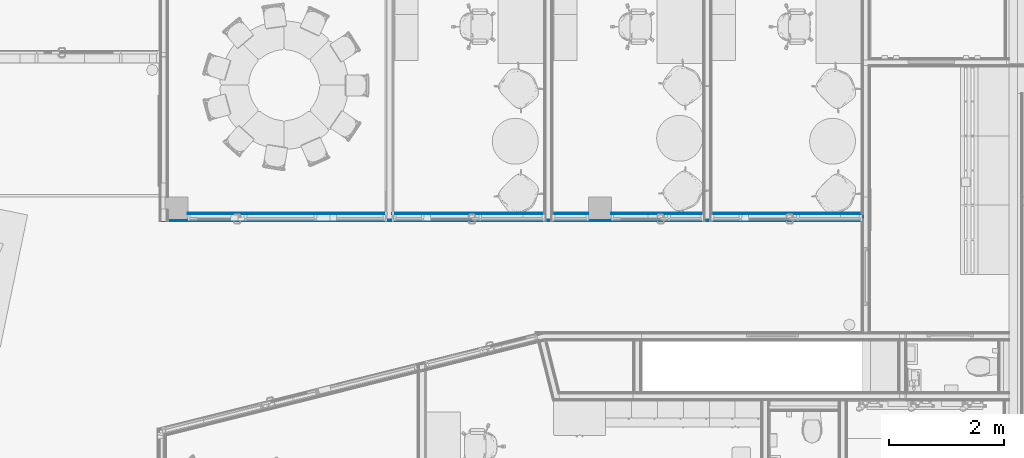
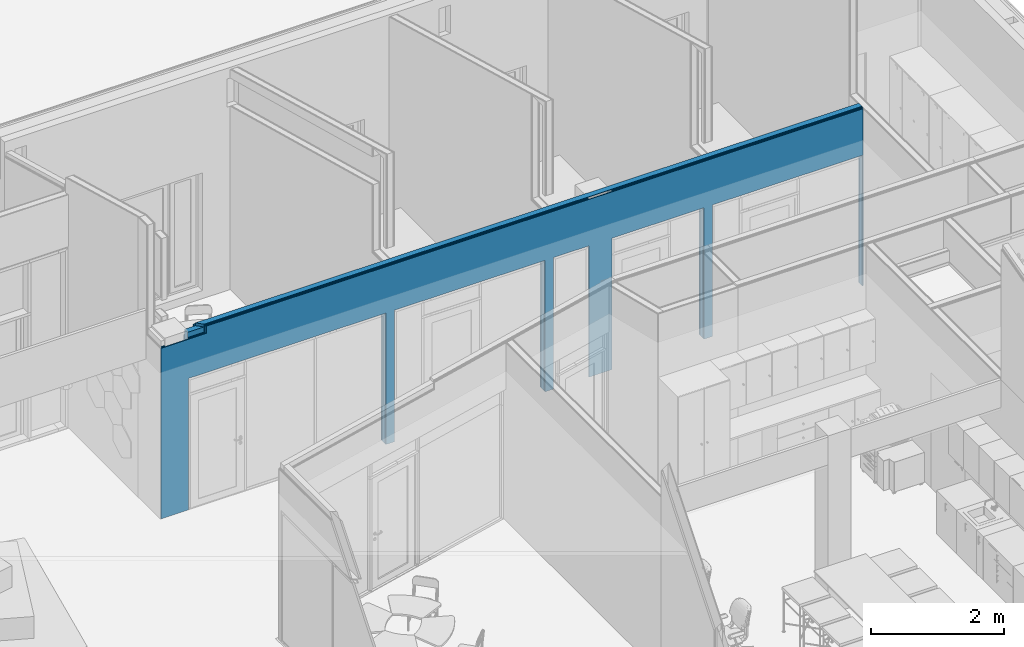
# One storey, part 75 of 153: 5 building element parts, 5 openings, 1 element without a shape of its own.
"""IFC2X3 building model written with IfcOpenShell, lengths in millimetres."""

from ifc_helpers import new_model, entity, si_unit, converted_unit, derived_unit, money_unit, direction, frame, origin_with_axes, place, context, subcontext, project, spatial, faceted_brep, material, type_object, element, aggregate, save


model = new_model("IFC2X3")

# Units and contexts
model_context = context("Model", 3, precision=0.01, world=origin_with_axes(), true_north=direction((0.0, 1.0)))
body_context = subcontext(model_context, "Body", "Model", "MODEL_VIEW")
ifc_project = project(units=[si_unit("LENGTHUNIT", "METRE", prefix="MILLI"), si_unit("AREAUNIT", "SQUARE_METRE"), si_unit("VOLUMEUNIT", "CUBIC_METRE"), converted_unit("PLANEANGLEUNIT", "DEGREE", entity("IfcPlaneAngleMeasure", 0.0174532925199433), si_unit("PLANEANGLEUNIT", "RADIAN"), dimensions=[0, 0, 0, 0, 0, 0, 0]), money_unit("EUR"), converted_unit("TIMEUNIT", "Year", entity("IfcTimeMeasure", 31557600.0), si_unit("TIMEUNIT", "SECOND"), dimensions=[0, 0, 1, 0, 0, 0, 0]), si_unit("MASSUNIT", "GRAM", prefix="KILO"), si_unit("THERMODYNAMICTEMPERATUREUNIT", "DEGREE_CELSIUS"), si_unit("LUMINOUSINTENSITYUNIT", "LUMEN"), si_unit("ENERGYUNIT", "JOULE", prefix="MEGA"), derived_unit("THERMALCONDUCTANCEUNIT", [(si_unit("POWERUNIT", "WATT"), 1), (si_unit("LENGTHUNIT", "METRE"), -1), (si_unit("THERMODYNAMICTEMPERATUREUNIT", "KELVIN"), -1)]), derived_unit("SPECIFICHEATCAPACITYUNIT", [(si_unit("ENERGYUNIT", "JOULE"), 1), (si_unit("MASSUNIT", "GRAM", prefix="KILO"), -1), (si_unit("THERMODYNAMICTEMPERATUREUNIT", "KELVIN"), -1)]), derived_unit("MASSDENSITYUNIT", [(si_unit("MASSUNIT", "GRAM", prefix="KILO"), 1), (si_unit("VOLUMEUNIT", "CUBIC_METRE"), -1)])], contexts=[model_context])

# Site, building, storey
site_placement = place(None, frame((0.0, 0.0, 8650.0), z_axis=(0.0, 0.0, 1.0), x_axis=(1.0, 0.0, 0.0)))
site = spatial("IfcSite", under=ifc_project, at=site_placement, Name="43301:001:0844", CompositionType="ELEMENT")
building_placement = place(site_placement, origin_with_axes())
building = spatial("IfcBuilding", under=site, at=building_placement, Name="Kuressaare Ametikooli tuulikute mehaanikute õppekorpus", CompositionType="ELEMENT")
storey_placement = place(building_placement, frame((0.0, 0.0, 4100.0), z_axis=(0.0, 0.0, 1.0), x_axis=(1.0, 0.0, 0.0)))
storey = spatial("IfcBuildingStorey", under=building, at=storey_placement, Name="2.korrus", CompositionType="ELEMENT", Elevation=4100.0)

# Wall, openings, building element parts
wall_type = type_object("IfcWallType", Name="SS-2.1 147", PredefinedType="NOTDEFINED")
wall_placement = place(storey_placement, frame((118281.2757303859, 23561.0689239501, 0.0), z_axis=(0.0, 0.0, 1.0), x_axis=(1.0, 0.0, 0.0)))
wall = element("IfcWall", 1, at=wall_placement, inside=storey, type_object=wall_type, Name="Sisesein")
opening_1_placement = place(wall_placement, frame((2201.231733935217, 0.0, 0.0), z_axis=(0.0, 0.0, 1.0), x_axis=(1.0, 0.0, 0.0)))
element("IfcOpeningElement", 2, at=opening_1_placement, cuts=wall, Name="ava", context=body_context, shape_type="Brep", body=[
    faceted_brep([(1714.560892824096, 0.0, 0.0), (1714.560892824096, 0.0, 2410.0), (1714.560892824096, -1.000000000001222, 2410.0), (1714.560892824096, -1.000000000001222, 0.0), (1714.560892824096, 147.9999999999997, 0.0), (1714.560892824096, 147.9999999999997, 2410.0), (-1714.560892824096, 0.0, 2410.0), (-1714.560892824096, -1.000000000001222, 2410.0), (-1714.560892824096, -1.000000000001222, 0.0), (-1714.560892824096, 0.0, 0.0), (-1714.560892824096, 147.9999999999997, 0.0), (-1714.560892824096, 147.9999999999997, 2410.0)], [[[0, 1, 2, 3]], [[1, 0, 4, 5]], [[1, 6, 7, 2]], [[8, 3, 2, 7]], [[9, 0, 3, 8]], [[0, 9, 10, 4]], [[5, 4, 10, 11]], [[6, 1, 5, 11]], [[6, 9, 8, 7]], [[9, 6, 11, 10]]]),
])
opening_2_placement = place(wall_placement, frame((5367.792626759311, 0.0, 0.0), z_axis=(0.0, 0.0, 1.0), x_axis=(1.0, 0.0, 0.0)))
element("IfcOpeningElement", 3, at=opening_2_placement, cuts=wall, Name="ava", context=body_context, shape_type="Brep", body=[
    faceted_brep([(1305.000000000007, 0.0, 0.0), (1305.000000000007, 0.0, 2410.0), (1305.000000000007, -1.000000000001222, 2410.0), (1305.000000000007, -1.000000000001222, 0.0), (1305.000000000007, 147.9999999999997, 0.0), (1305.000000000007, 147.9999999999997, 2410.0), (-1304.999999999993, 0.0, 2410.0), (-1304.999999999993, -1.000000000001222, 2410.0), (-1304.999999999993, -1.000000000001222, 0.0), (-1304.999999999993, 0.0, 0.0), (-1304.999999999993, 147.9999999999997, 0.0), (-1304.999999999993, 147.9999999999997, 2410.0)], [[[0, 1, 2, 3]], [[1, 0, 4, 5]], [[1, 6, 7, 2]], [[8, 3, 2, 7]], [[9, 0, 3, 8]], [[0, 9, 10, 4]], [[5, 4, 10, 11]], [[6, 1, 5, 11]], [[6, 9, 8, 7]], [[9, 6, 11, 10]]]),
])
opening_3_placement = place(wall_placement, frame((7128.292626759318, 0.0, 0.0), z_axis=(0.0, 0.0, 1.0), x_axis=(1.0, 0.0, 0.0)))
element("IfcOpeningElement", 4, at=opening_3_placement, cuts=wall, Name="ava", context=body_context, shape_type="Brep", body=[
    faceted_brep([(308.4999999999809, 0.0, 0.0), (308.4999999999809, 0.0, 2410.0), (308.4999999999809, -1.000000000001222, 2410.0), (308.4999999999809, -1.000000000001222, 0.0), (308.4999999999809, 147.9999999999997, 0.0), (308.4999999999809, 147.9999999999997, 2410.0), (-308.4999999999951, 0.0, 2410.0), (-308.4999999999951, -1.000000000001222, 2410.0), (-308.4999999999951, -1.000000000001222, 0.0), (-308.4999999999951, 0.0, 0.0), (-308.4999999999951, 147.9999999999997, 0.0), (-308.4999999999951, 147.9999999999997, 2410.0)], [[[0, 1, 2, 3]], [[1, 0, 4, 5]], [[1, 6, 7, 2]], [[8, 3, 2, 7]], [[9, 0, 3, 8]], [[0, 9, 10, 4]], [[5, 4, 10, 11]], [[6, 1, 5, 11]], [[6, 9, 8, 7]], [[9, 6, 11, 10]]]),
])
opening_4_placement = place(wall_placement, frame((8633.292626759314, 0.0, 0.0), z_axis=(0.0, 0.0, 1.0), x_axis=(1.0, 0.0, 0.0)))
element("IfcOpeningElement", 5, at=opening_4_placement, cuts=wall, Name="ava", context=body_context, shape_type="Brep", body=[
    faceted_brep([(796.5000000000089, 0.0, 0.0), (796.5000000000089, 0.0, 2410.0), (796.5000000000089, -1.000000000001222, 2410.0), (796.5000000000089, -1.000000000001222, 0.0), (796.5000000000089, 147.9999999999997, 0.0), (796.5000000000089, 147.9999999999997, 2410.0), (-796.5000000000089, 0.0, 2410.0), (-796.5000000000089, -1.000000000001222, 2410.0), (-796.5000000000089, -1.000000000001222, 0.0), (-796.5000000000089, 0.0, 0.0), (-796.5000000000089, 147.9999999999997, 0.0), (-796.5000000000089, 147.9999999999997, 2410.0)], [[[0, 1, 2, 3]], [[1, 0, 4, 5]], [[1, 6, 7, 2]], [[8, 3, 2, 7]], [[9, 0, 3, 8]], [[0, 9, 10, 4]], [[5, 4, 10, 11]], [[6, 1, 5, 11]], [[6, 9, 8, 7]], [[9, 6, 11, 10]]]),
])
opening_5_placement = place(wall_placement, frame((10881.79262675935, 0.0, 0.0), z_axis=(0.0, 0.0, 1.0), x_axis=(1.0, 0.0, 0.0)))
element("IfcOpeningElement", 6, at=opening_5_placement, cuts=wall, Name="ava", context=body_context, shape_type="Brep", body=[
    faceted_brep([(1304.999999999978, 0.0, 0.0), (1304.999999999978, 0.0, 2410.0), (1304.999999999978, -1.000000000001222, 2410.0), (1304.999999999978, -1.000000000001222, 0.0), (1304.999999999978, 147.9999999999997, 0.0), (1304.999999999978, 147.9999999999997, 2410.0), (-1305.000000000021, 0.0, 2410.0), (-1305.000000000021, -1.000000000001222, 2410.0), (-1305.000000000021, -1.000000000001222, 0.0), (-1305.000000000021, 0.0, 0.0), (-1305.000000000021, 147.9999999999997, 0.0), (-1305.000000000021, 147.9999999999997, 2410.0)], [[[0, 1, 2, 3]], [[1, 0, 4, 5]], [[1, 6, 7, 2]], [[8, 3, 2, 7]], [[9, 0, 3, 8]], [[0, 9, 10, 4]], [[5, 4, 10, 11]], [[6, 1, 5, 11]], [[6, 9, 8, 7]], [[9, 6, 11, 10]]]),
])
ifc_material_1 = material(Name="Kipsplaat")
building_element_part_1_placement = place(wall_placement, origin_with_axes())
building_element_part_1 = element("IfcBuildingElementPart", 7, at=building_element_part_1_placement, material=ifc_material_1, Name="Kipsplaat", context=body_context, shape_type="Brep", body=[
    faceted_brep([(7436.792626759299, 121.0000000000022, 2410.0), (7436.792626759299, 134.0000000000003, 2410.0), (7436.792626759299, 134.0000000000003, 3275.712739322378), (7436.792626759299, 121.0000000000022, 3275.712739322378), (6819.792626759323, 134.0000000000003, 2410.0), (6819.792626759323, 121.0000000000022, 2410.0), (6819.792626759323, 134.0000000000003, 3.000000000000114), (6819.792626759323, 134.0000000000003, 0.0), (6793.792626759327, 134.0000000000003, 0.0), (6793.792626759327, 134.0000000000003, 3275.712739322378), (6793.792626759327, 121.0000000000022, 3275.712739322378), (6793.792626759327, 121.0000000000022, 0.0), (6819.792626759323, 121.0000000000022, 0.0), (6819.792626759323, 121.0000000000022, 3.000000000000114)], [[[0, 1, 2, 3]], [[4, 1, 0, 5]], [[4, 6, 7, 8, 9, 2, 1]], [[2, 9, 10, 3]], [[5, 0, 3, 10, 11, 12, 13]], [[6, 4, 5, 13]], [[6, 13, 12, 7]], [[7, 12, 11, 8]], [[10, 9, 8, 11]]]),
    faceted_brep([(3915.792626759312, 134.0000000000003, 2410.0), (486.6708411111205, 134.0000000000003, 2410.0), (486.6708411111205, 134.0000000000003, 3145.0), (665.6695643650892, 134.0000000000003, 3145.0), (665.6698615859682, 134.0002972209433, 3275.712739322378), (3941.792626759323, 134.0000000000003, 3275.712739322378), (3941.792626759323, 134.0000000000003, 0.0), (3915.792119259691, 134.0000000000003, 0.0), (3915.792626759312, 134.0000000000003, 3.000000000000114), (3915.792626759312, 120.9999999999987, 2410.0), (486.6708411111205, 120.9999999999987, 2410.0), (486.6708411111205, 120.9999999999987, 3145.0), (678.6695402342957, 120.9999999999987, 3145.0), (678.66985109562, 121.0003108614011, 3275.712739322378), (3941.792626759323, 120.9999999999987, 3275.712739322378), (3941.792626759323, 120.9999999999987, 0.0), (3915.792117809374, 120.9999999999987, 0.0), (3915.792626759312, 120.9999999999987, 3.000000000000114)], [[[0, 1, 2, 3, 4, 5, 6, 7, 8]], [[1, 0, 9, 10]], [[1, 10, 11, 2]], [[11, 12, 3, 2]], [[13, 4, 3, 12]], [[14, 5, 4, 13]], [[5, 14, 15, 6]], [[16, 7, 6, 15]], [[17, 8, 7, 16]], [[0, 8, 17, 9]], [[9, 17, 16, 15, 14, 13, 12, 11, 10]]]),
    faceted_brep([(4062.792626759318, 134.0000000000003, 2410.0), (4062.792626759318, 134.0000000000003, 3.000000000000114), (4062.792626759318, 134.0000000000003, 0.0), (4036.792626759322, 134.0000000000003, 0.0), (4036.792626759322, 134.0000000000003, 3275.712739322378), (6698.792626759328, 134.0000000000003, 3275.712739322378), (6698.792626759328, 134.0000000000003, 0.0), (6672.79211925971, 134.0000000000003, 0.0), (6672.792626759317, 134.0000000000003, 3.000000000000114), (6672.792626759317, 134.0000000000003, 2410.0), (4062.792626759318, 120.9999999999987, 2410.0), (4062.792626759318, 120.9999999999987, 3.000000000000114), (4062.792626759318, 120.9999999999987, 0.0), (4036.792626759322, 120.9999999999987, 0.0), (4036.792626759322, 120.9999999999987, 3275.712739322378), (6698.792626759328, 120.9999999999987, 3275.712739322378), (6698.792626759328, 120.9999999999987, 0.0), (6672.792117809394, 120.9999999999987, 0.0), (6672.792626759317, 120.9999999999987, 3.000000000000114), (6672.792626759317, 120.9999999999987, 2410.0)], [[[0, 1, 2, 3, 4, 5, 6, 7, 8, 9]], [[1, 0, 10, 11]], [[1, 11, 12, 2]], [[2, 12, 13, 3]], [[14, 4, 3, 13]], [[15, 5, 4, 14]], [[5, 15, 16, 6]], [[17, 7, 6, 16]], [[18, 8, 7, 17]], [[9, 8, 18, 19]], [[0, 9, 19, 10]], [[19, 18, 17, 16, 15, 14, 13, 12, 11, 10]]]),
    faceted_brep([(9429.792626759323, 134.0000000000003, 2410.0), (7836.792626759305, 134.0000000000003, 2410.0), (7836.792626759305, 134.0000000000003, 3275.712739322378), (9455.792626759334, 134.0000000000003, 3275.712739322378), (9455.792626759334, 134.0000000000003, 0.0), (9429.792119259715, 134.0000000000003, 0.0), (9429.792626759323, 134.0000000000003, 3.000000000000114), (9429.792626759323, 121.0000000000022, 2410.0), (7836.792626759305, 121.0000000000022, 2410.0), (7836.792626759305, 121.0000000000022, 3275.712739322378), (9455.792626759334, 121.0000000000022, 3275.712739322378), (9455.792626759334, 121.0000000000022, 0.0), (9429.792117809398, 121.0000000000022, 0.0), (9429.792626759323, 121.0000000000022, 3.000000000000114)], [[[0, 1, 2, 3, 4, 5, 6]], [[1, 0, 7, 8]], [[1, 8, 9, 2]], [[9, 10, 3, 2]], [[3, 10, 11, 4]], [[12, 5, 4, 11]], [[13, 6, 5, 12]], [[0, 6, 13, 7]], [[7, 13, 12, 11, 10, 9, 8]]]),
    faceted_brep([(9576.792626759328, 134.0000000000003, 2410.0), (9576.792626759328, 134.0000000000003, 3.000000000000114), (9576.792626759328, 134.0000000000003, 0.0), (9550.792626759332, 134.0000000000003, 0.0), (9550.792626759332, 134.0000000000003, 3275.712739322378), (12186.79262675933, 134.0000000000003, 3275.712739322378), (12186.79262675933, 134.0000000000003, 3260.712739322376), (12199.79262675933, 134.0000000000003, 3260.712739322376), (12199.79262675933, 134.0000000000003, 0.0), (12186.79211925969, 134.0000000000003, 0.0), (12186.79262675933, 134.0000000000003, 3.000000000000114), (12186.79262675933, 134.0000000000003, 2410.0), (9576.792626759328, 121.0000000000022, 2410.0), (9576.792626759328, 121.0000000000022, 3.000000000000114), (9576.792626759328, 121.0000000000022, 0.0), (9550.792626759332, 121.0000000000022, 0.0), (9550.792626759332, 121.0000000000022, 3275.712739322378), (12186.79262675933, 121.0000000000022, 3275.712739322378), (12186.79262675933, 121.0000000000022, 3260.712739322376), (12199.79262675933, 121.0000000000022, 3260.712739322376), (12199.79262675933, 121.0000000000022, 0.0), (12186.79211780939, 121.0000000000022, 0.0), (12186.79262675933, 121.0000000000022, 3.000000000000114), (12186.79262675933, 121.0000000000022, 2410.0)], [[[0, 1, 2, 3, 4, 5, 6, 7, 8, 9, 10, 11]], [[1, 0, 12, 13]], [[1, 13, 14, 2]], [[14, 15, 3, 2]], [[4, 3, 15, 16]], [[5, 4, 16, 17]], [[17, 18, 6, 5]], [[19, 7, 6, 18]], [[8, 7, 19, 20]], [[9, 8, 20, 21]], [[22, 10, 9, 21]], [[11, 10, 22, 23]], [[0, 11, 23, 12]], [[23, 22, 21, 20, 19, 18, 17, 16, 15, 14, 13, 12]]]),
])
ifc_material_2 = material(Name="Soojustus - Mineraalvill pehme")
building_element_part_2_placement = place(wall_placement, origin_with_axes())
building_element_part_2 = element("IfcBuildingElementPart", 8, at=building_element_part_2_placement, material=ifc_material_2, Name="Soojustus - Mineraalvill pehme", context=body_context, shape_type="Brep", body=[
    faceted_brep([(9576.792626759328, 121.0000000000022, 2410.0), (9576.792626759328, 121.0000000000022, 3.000000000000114), (9576.792626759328, 121.0000000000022, 0.0), (9429.792117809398, 121.0000000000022, 0.0), (9429.792626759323, 121.0000000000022, 3.000000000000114), (9429.792626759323, 121.0000000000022, 2410.0), (7836.792626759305, 121.0000000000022, 2410.0), (7836.792626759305, 121.0000000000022, 3280.0), (7436.792626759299, 121.0000000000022, 3280.0), (7436.792626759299, 121.0000000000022, 2410.0), (6819.792626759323, 121.0000000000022, 2410.0), (6819.792626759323, 121.0000000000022, 3.000000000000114), (6819.792626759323, 121.0000000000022, 0.0), (6672.792117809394, 121.0000000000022, 0.0), (6672.792626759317, 121.0000000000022, 3.000000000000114), (6672.792626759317, 121.0000000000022, 2410.0), (4062.792626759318, 121.0000000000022, 2410.0), (4062.792626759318, 121.0000000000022, 3.000000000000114), (4062.792626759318, 120.9999999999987, 0.0), (3915.792117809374, 120.9999999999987, 0.0), (3915.792626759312, 121.0000000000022, 3.000000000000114), (3915.792626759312, 121.0000000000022, 2410.0), (486.6708411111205, 121.0000000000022, 2410.0), (486.6708411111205, 121.0000000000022, 3240.0), (678.6695402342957, 121.0000000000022, 3240.0), (678.6695402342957, 120.9999999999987, 3290.712739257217), (12186.79262675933, 121.0000000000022, 3290.712738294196), (12186.79262675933, 121.0000000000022, 3260.712739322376), (12212.79262675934, 121.0000000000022, 3260.712739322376), (12212.79262675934, 121.0000000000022, 0.0), (12186.79211780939, 121.0000000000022, 0.0), (12186.79262675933, 121.0000000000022, 3.000000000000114), (12186.79262675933, 121.0000000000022, 2410.0), (9576.792626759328, 25.9999999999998, 2410.0), (9576.792626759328, 25.9999999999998, 0.0), (9576.792626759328, 102.9999999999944, 0.0), (9576.792626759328, 102.9999999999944, 3.000000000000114), (9429.792626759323, 25.9999999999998, 0.0), (9429.792626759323, 102.9999999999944, 0.0), (9429.792626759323, 102.9999999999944, 3.000000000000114), (9429.792626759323, 25.9999999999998, 2410.0), (7836.792626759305, 25.9999999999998, 2410.0), (7836.792626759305, 25.9999999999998, 3280.0), (7436.792626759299, 25.9999999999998, 3280.0), (7436.792626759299, 25.9999999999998, 2410.0), (6819.792626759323, 25.9999999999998, 2410.0), (6819.792626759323, 25.9999999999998, 0.0), (6819.792626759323, 102.9999999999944, 0.0), (6819.792626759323, 102.9999999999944, 3.000000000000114), (6672.792626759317, 25.9999999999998, 0.0), (6672.792626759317, 102.999999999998, 0.0), (6672.792626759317, 102.999999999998, 3.000000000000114), (6672.792626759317, 25.9999999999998, 2410.0), (4062.792626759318, 25.9999999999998, 2410.0), (4062.792626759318, 25.9999999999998, 0.0), (4062.792626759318, 102.999999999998, 0.0), (4062.792626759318, 102.999999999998, 3.000000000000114), (3915.792626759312, 102.999999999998, 0.0), (3915.792626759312, 25.9999999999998, 0.0), (3915.792626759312, 102.999999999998, 3.000000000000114), (3915.792626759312, 25.9999999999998, 2410.0), (486.6708411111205, 25.9999999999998, 2410.0), (486.6708411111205, 25.9999999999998, 3240.0), (773.6693638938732, 25.9999999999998, 3240.0), (773.6693638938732, 25.9999999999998, 3290.712739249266), (12186.79262675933, 25.9999999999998, 3290.712738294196), (12186.79262675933, 25.9999999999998, 3260.712739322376), (12212.79262675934, 25.9999999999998, 3260.712739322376), (12212.79262675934, 25.9999999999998, 0.0), (12186.79262675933, 25.9999999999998, 0.0), (12186.79262675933, 102.9999999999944, 0.0), (12186.79262675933, 102.9999999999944, 3.000000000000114), (12186.79262675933, 25.9999999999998, 2410.0)], [[[0, 1, 2, 3, 4, 5, 6, 7, 8, 9, 10, 11, 12, 13, 14, 15, 16, 17, 18, 19, 20, 21, 22, 23, 24, 25, 26, 27, 28, 29, 30, 31, 32]], [[1, 0, 33, 34, 35, 36]], [[36, 35, 2, 1]], [[35, 34, 37, 38, 3, 2]], [[4, 3, 38, 39]], [[38, 37, 40, 5, 4, 39]], [[5, 40, 41, 6]], [[41, 42, 7, 6]], [[7, 42, 43, 8]], [[8, 43, 44, 9]], [[44, 45, 10, 9]], [[11, 10, 45, 46, 47, 48]], [[12, 11, 48, 47]], [[47, 46, 49, 50, 13, 12]], [[50, 51, 14, 13]], [[50, 49, 52, 15, 14, 51]], [[53, 16, 15, 52]], [[54, 55, 56, 17, 16, 53]], [[17, 56, 55, 18]], [[57, 19, 18, 55, 54, 58]], [[59, 20, 19, 57]], [[21, 20, 59, 57, 58, 60]], [[22, 21, 60, 61]], [[22, 61, 62, 23]], [[62, 63, 24, 23]], [[25, 24, 63, 64]], [[25, 64, 65, 26]], [[65, 66, 27, 26]], [[66, 67, 28, 27]], [[68, 29, 28, 67]], [[69, 70, 30, 29, 68]], [[71, 31, 30, 70]], [[32, 31, 71, 70, 69, 72]], [[0, 32, 72, 33]], [[72, 69, 68, 67, 66, 65, 64, 63, 62, 61, 60, 58, 54, 53, 52, 49, 46, 45, 44, 43, 42, 41, 40, 37, 34, 33]]]),
])
building_element_part_3_placement = place(wall_placement, origin_with_axes())
building_element_part_3 = element("IfcBuildingElementPart", 9, at=building_element_part_3_placement, material=ifc_material_1, Name="Kipsplaat", context=body_context, shape_type="Brep", body=[
    faceted_brep([(7436.792626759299, 134.0000000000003, 2410.0), (7436.792626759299, 146.9999999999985, 2410.0), (7436.792626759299, 146.9999999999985, 3260.712739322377), (7436.792626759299, 134.0000000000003, 3260.712739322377), (6819.792626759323, 146.9999999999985, 2410.0), (6819.792626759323, 134.0000000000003, 2410.0), (6819.792626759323, 147.000000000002, 3.000000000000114), (6819.792626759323, 147.000000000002, 0.0), (6806.792626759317, 147.000000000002, 0.0), (6806.792626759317, 146.9999999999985, 3260.712739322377), (6806.792626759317, 134.0000000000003, 3260.712739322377), (6806.792626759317, 134.0000000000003, 0.0), (6819.792626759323, 134.0000000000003, 0.0), (6819.792626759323, 134.0000000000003, 3.000000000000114)], [[[0, 1, 2, 3]], [[4, 1, 0, 5]], [[4, 6, 7, 8, 9, 2, 1]], [[2, 9, 10, 3]], [[5, 0, 3, 10, 11, 12, 13]], [[6, 4, 5, 13]], [[6, 13, 12, 7]], [[7, 12, 11, 8]], [[10, 9, 8, 11]]]),
    faceted_brep([(3915.792626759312, 146.9999999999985, 2410.0), (486.6708411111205, 146.9999999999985, 2410.0), (486.6708411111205, 146.9999999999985, 3129.999999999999), (652.6695884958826, 146.9999999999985, 3129.999999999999), (652.6698720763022, 147.000283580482, 3260.712739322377), (3928.792626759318, 146.9999999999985, 3260.712739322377), (3928.792626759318, 146.9999999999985, 0.0), (3915.792120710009, 146.9999999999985, 0.0), (3915.792626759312, 146.9999999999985, 3.000000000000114), (3915.792626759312, 134.0000000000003, 2410.0), (486.6708411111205, 134.0000000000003, 2410.0), (486.6708411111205, 134.0000000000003, 3129.999999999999), (665.6695643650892, 134.0000000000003, 3129.999999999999), (665.6698615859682, 134.0002972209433, 3260.712739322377), (3928.792626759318, 134.0000000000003, 3260.712739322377), (3928.792626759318, 134.0000000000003, 0.0), (3915.792119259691, 134.0000000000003, 0.0), (3915.792626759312, 134.0000000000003, 3.000000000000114)], [[[0, 1, 2, 3, 4, 5, 6, 7, 8]], [[1, 0, 9, 10]], [[1, 10, 11, 2]], [[11, 12, 3, 2]], [[13, 4, 3, 12]], [[14, 5, 4, 13]], [[5, 14, 15, 6]], [[16, 7, 6, 15]], [[17, 8, 7, 16]], [[0, 8, 17, 9]], [[9, 17, 16, 15, 14, 13, 12, 11, 10]]]),
    faceted_brep([(4062.792626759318, 146.9999999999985, 2410.0), (4062.792626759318, 146.9999999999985, 3.000000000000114), (4062.792626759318, 146.9999999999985, 0.0), (4049.792626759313, 146.9999999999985, 0.0), (4049.792626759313, 146.9999999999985, 3260.712739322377), (6685.792626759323, 146.9999999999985, 3260.712739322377), (6685.792626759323, 146.9999999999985, 0.0), (6672.792120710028, 146.9999999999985, 0.0), (6672.792626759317, 146.9999999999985, 3.000000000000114), (6672.792626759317, 146.9999999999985, 2410.0), (4062.792626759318, 134.0000000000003, 2410.0), (4062.792626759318, 134.0000000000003, 3.000000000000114), (4062.792626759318, 134.0000000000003, 0.0), (4049.792626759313, 134.0000000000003, 0.0), (4049.792626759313, 134.0000000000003, 3260.712739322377), (6685.792626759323, 134.0000000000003, 3260.712739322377), (6685.792626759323, 134.0000000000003, 0.0), (6672.79211925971, 134.0000000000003, 0.0), (6672.792626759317, 134.0000000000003, 3.000000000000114), (6672.792626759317, 134.0000000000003, 2410.0)], [[[0, 1, 2, 3, 4, 5, 6, 7, 8, 9]], [[1, 0, 10, 11]], [[1, 11, 12, 2]], [[2, 12, 13, 3]], [[14, 4, 3, 13]], [[15, 5, 4, 14]], [[5, 15, 16, 6]], [[17, 7, 6, 16]], [[18, 8, 7, 17]], [[9, 8, 18, 19]], [[0, 9, 19, 10]], [[19, 18, 17, 16, 15, 14, 13, 12, 11, 10]]]),
    faceted_brep([(9429.792626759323, 147.000000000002, 2410.0), (7836.792626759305, 146.9999999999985, 2410.0), (7836.792626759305, 146.9999999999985, 3260.712739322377), (9442.792626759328, 146.9999999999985, 3260.712739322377), (9442.792626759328, 147.000000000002, 0.0), (9429.792120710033, 147.000000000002, 0.0), (9429.792626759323, 147.000000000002, 3.000000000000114), (9429.792626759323, 134.0000000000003, 2410.0), (7836.792626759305, 134.0000000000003, 2410.0), (7836.792626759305, 134.0000000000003, 3260.712739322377), (9442.792626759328, 134.0000000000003, 3260.712739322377), (9442.792626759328, 134.0000000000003, 0.0), (9429.792119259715, 134.0000000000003, 0.0), (9429.792626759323, 134.0000000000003, 3.000000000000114)], [[[0, 1, 2, 3, 4, 5, 6]], [[1, 0, 7, 8]], [[1, 8, 9, 2]], [[9, 10, 3, 2]], [[3, 10, 11, 4]], [[12, 5, 4, 11]], [[13, 6, 5, 12]], [[0, 6, 13, 7]], [[7, 13, 12, 11, 10, 9, 8]]]),
    faceted_brep([(12186.79262675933, 134.0000000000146, 2410.0), (12186.79262675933, 147.0000000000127, 2410.0), (12186.79262675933, 146.9999999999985, 3260.712739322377), (12186.79262675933, 134.0000000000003, 3260.712739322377), (9576.792626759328, 146.9999999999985, 2410.0), (9576.792626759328, 134.0000000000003, 2410.0), (9576.792626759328, 146.9999999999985, 3.000000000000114), (9576.792626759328, 147.000000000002, 0.0), (9563.792626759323, 147.000000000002, 0.0), (9563.792626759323, 146.9999999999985, 3260.712739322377), (9563.792626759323, 134.0000000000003, 3260.712739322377), (9563.792626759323, 134.0000000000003, 0.0), (9576.792626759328, 134.0000000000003, 0.0), (9576.792626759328, 134.0000000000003, 3.000000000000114)], [[[0, 1, 2, 3]], [[4, 1, 0, 5]], [[4, 6, 7, 8, 9, 2, 1]], [[2, 9, 10, 3]], [[5, 0, 3, 10, 11, 12, 13]], [[6, 4, 5, 13]], [[6, 13, 12, 7]], [[12, 11, 8, 7]], [[9, 8, 11, 10]]]),
])
building_element_part_4_placement = place(wall_placement, origin_with_axes())
building_element_part_4 = element("IfcBuildingElementPart", 10, at=building_element_part_4_placement, material=ifc_material_1, Name="Kipsplaat", context=body_context, shape_type="Brep", body=[
    faceted_brep([(12186.79262675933, 0.0, 2410.0), (12186.79262675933, 13.00000000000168, 2410.0), (12186.79262675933, 13.00000000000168, 3260.712739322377), (12186.79262675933, 0.0, 3260.712739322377), (9576.792626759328, 13.00000000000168, 2410.0), (9576.792626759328, 0.0, 2410.0), (9576.792626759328, 13.00000000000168, 0.0), (9429.792626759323, 13.00000000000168, 0.0), (9429.792626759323, 13.00000000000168, 2410.0), (7836.792626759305, 13.00000000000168, 2410.0), (7836.792626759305, 13.00000000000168, 0.0), (7436.792626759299, 13.00000000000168, 0.0), (7436.792626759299, 13.00000000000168, 2410.0), (6819.792626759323, 13.00000000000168, 2410.0), (6819.792626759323, 13.00000000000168, 0.0), (6672.792626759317, 13.00000000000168, 0.0), (6672.792626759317, 13.00000000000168, 2410.0), (4062.792626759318, 13.00000000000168, 2410.0), (4062.792626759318, 13.00000000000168, 0.0), (3915.792626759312, 13.00000000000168, 0.0), (3915.792626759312, 13.00000000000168, 2410.0), (486.6708411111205, 13.00000000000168, 2410.0), (486.6708411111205, 13.00000000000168, 0.0), (13.00000000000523, 13.00000000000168, 0.0), (13.00000000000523, 13.00000000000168, 3129.999999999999), (786.6693397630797, 13.00000000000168, 3129.999999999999), (786.669763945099, 13.0004241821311, 3260.712739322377), (799.669753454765, 0.0004378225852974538, 3260.712739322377), (799.6693156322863, 0.0, 3129.999999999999), (13.00000000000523, 0.0, 3129.999999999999), (13.00000000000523, 0.0, 0.0), (486.6708411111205, 0.0, 0.0), (486.6708411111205, 0.0, 2410.0), (3915.792626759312, 0.0, 2410.0), (3915.792626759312, 0.0, 0.0), (4062.792626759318, 0.0, 0.0), (4062.792626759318, 0.0, 2410.0), (6672.792626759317, 0.0, 2410.0), (6672.792626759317, 0.0, 0.0), (6819.792626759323, 0.0, 0.0), (6819.792626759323, 0.0, 2410.0), (7436.792626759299, 0.0, 2410.0), (7436.792626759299, 0.0, 0.0), (7836.792626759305, 0.0, 0.0), (7836.792626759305, 0.0, 2410.0), (9429.792626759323, 0.0, 2410.0), (9429.792626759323, 0.0, 0.0), (9576.792626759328, 0.0, 0.0)], [[[0, 1, 2, 3]], [[4, 1, 0, 5]], [[4, 6, 7, 8, 9, 10, 11, 12, 13, 14, 15, 16, 17, 18, 19, 20, 21, 22, 23, 24, 25, 26, 2, 1]], [[3, 2, 26, 27]], [[5, 0, 3, 27, 28, 29, 30, 31, 32, 33, 34, 35, 36, 37, 38, 39, 40, 41, 42, 43, 44, 45, 46, 47]], [[6, 4, 5, 47]], [[6, 47, 46, 7]], [[7, 46, 45, 8]], [[8, 45, 44, 9]], [[9, 44, 43, 10]], [[43, 42, 11, 10]], [[42, 41, 12, 11]], [[41, 40, 13, 12]], [[40, 39, 14, 13]], [[38, 15, 14, 39]], [[37, 16, 15, 38]], [[36, 17, 16, 37]], [[35, 18, 17, 36]], [[19, 18, 35, 34]], [[20, 19, 34, 33]], [[21, 20, 33, 32]], [[22, 21, 32, 31]], [[22, 31, 30, 23]], [[29, 24, 23, 30]], [[29, 28, 25, 24]], [[27, 26, 25, 28]]]),
])
building_element_part_5_placement = place(wall_placement, origin_with_axes())
building_element_part_5 = element("IfcBuildingElementPart", 11, at=building_element_part_5_placement, material=ifc_material_1, Name="Kipsplaat", context=body_context, shape_type="Brep", body=[
    faceted_brep([(86.67084111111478, 13.00000000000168, 3145.0), (86.67084111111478, 25.9999999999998, 3145.0), (25.99999999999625, 25.9999999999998, 3145.0), (25.99999999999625, 13.00000000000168, 3145.0), (86.67084111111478, 25.9999999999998, 0.0), (86.67084111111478, 13.00000000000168, 0.0), (25.99999999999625, 25.9999999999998, 0.0), (25.99999999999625, 13.00000000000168, 0.0)], [[[0, 1, 2, 3]], [[4, 1, 0, 5]], [[1, 4, 6, 2]], [[7, 3, 2, 6]], [[5, 0, 3, 7]], [[4, 5, 7, 6]]]),
    faceted_brep([(7436.792626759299, 13.00000000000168, 2410.0), (7436.792626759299, 26.00012570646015, 2410.0), (7436.792626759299, 26.00017086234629, 3275.712739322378), (7436.792626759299, 13.00000000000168, 3275.712739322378), (6819.792626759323, 26.00017086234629, 2410.0), (6819.792626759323, 13.00000000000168, 2410.0), (6819.792626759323, 25.9999999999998, 0.0), (6672.792626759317, 25.9999999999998, 0.0), (6672.792626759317, 26.00017086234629, 2410.0), (4062.792626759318, 26.00017086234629, 2410.0), (4062.792626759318, 25.9999999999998, 0.0), (3915.792626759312, 25.9999999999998, 0.0), (3915.792626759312, 26.00017086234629, 2410.0), (486.6708411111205, 25.9999999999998, 2410.0), (486.6708411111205, 25.9999999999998, 3145.0), (773.6693638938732, 25.9999999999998, 3145.0), (773.6697744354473, 26.00041054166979, 3275.712739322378), (786.669763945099, 13.00042418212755, 3275.712739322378), (786.6693397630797, 13.00000000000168, 3145.0), (486.6708411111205, 13.00000000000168, 3145.0), (486.6708411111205, 13.00000000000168, 2410.0), (3915.792626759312, 13.00000000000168, 2410.0), (3915.792626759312, 13.00000000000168, 0.0), (4062.792626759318, 13.00000000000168, 0.0), (4062.792626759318, 13.00000000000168, 2410.0), (6672.792626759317, 13.00000000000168, 2410.0), (6672.792626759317, 13.00000000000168, 0.0), (6819.792626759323, 13.00000000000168, 0.0)], [[[0, 1, 2, 3]], [[4, 1, 0, 5]], [[4, 6, 7, 8, 9, 10, 11, 12, 13, 14, 15, 16, 2, 1]], [[17, 3, 2, 16]], [[5, 0, 3, 17, 18, 19, 20, 21, 22, 23, 24, 25, 26, 27]], [[6, 4, 5, 27]], [[6, 27, 26, 7]], [[7, 26, 25, 8]], [[8, 25, 24, 9]], [[9, 24, 23, 10]], [[23, 22, 11, 10]], [[22, 21, 12, 11]], [[21, 20, 13, 12]], [[19, 14, 13, 20]], [[15, 14, 19, 18]], [[15, 18, 17, 16]]]),
    faceted_brep([(9576.792626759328, 25.9999999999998, 2410.0), (9576.792626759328, 25.9999999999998, 0.0), (9429.792626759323, 25.9999999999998, 0.0), (9429.792626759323, 25.9999999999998, 2410.0), (7836.792626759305, 26.00011512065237, 2410.0), (7836.792626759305, 26.00015647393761, 3275.712739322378), (12186.79262675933, 25.9999999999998, 3275.712739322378), (12186.79262675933, 25.9999999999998, 3260.712739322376), (12199.79262675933, 25.9999999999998, 3260.712739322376), (12199.79262675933, 25.9999999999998, 0.0), (12186.79262675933, 25.9999999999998, 0.0), (12186.79262675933, 25.9999999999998, 2410.0), (9576.792626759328, 13.00000000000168, 2410.0), (9576.792626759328, 13.00000000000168, 0.0), (9429.792626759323, 13.00000000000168, 0.0), (9429.792626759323, 13.00000000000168, 2410.0), (7836.792626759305, 13.00000000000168, 2410.0), (7836.792626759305, 13.00000000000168, 3275.712739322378), (12186.79262675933, 13.00000000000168, 3275.712739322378), (12186.79262675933, 13.00000000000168, 3260.712739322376), (12199.79262675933, 13.00000000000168, 3260.712739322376), (12199.79262675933, 13.00000000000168, 0.0), (12186.79262675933, 13.00000000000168, 0.0), (12186.79262675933, 13.00000000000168, 2410.0)], [[[0, 1, 2, 3, 4, 5, 6, 7, 8, 9, 10, 11]], [[1, 0, 12, 13]], [[1, 13, 14, 2]], [[2, 14, 15, 3]], [[3, 15, 16, 4]], [[16, 17, 5, 4]], [[18, 6, 5, 17]], [[18, 19, 7, 6]], [[20, 8, 7, 19]], [[9, 8, 20, 21]], [[22, 10, 9, 21]], [[11, 10, 22, 23]], [[0, 11, 23, 12]], [[23, 22, 21, 20, 19, 18, 17, 16, 15, 14, 13, 12]]]),
])
aggregate(wall, [building_element_part_1, building_element_part_2, building_element_part_3, building_element_part_4, building_element_part_5])

save(model, "model.ifc")
